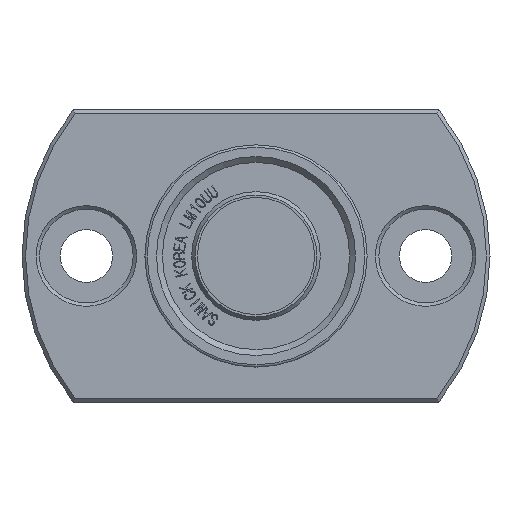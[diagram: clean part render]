
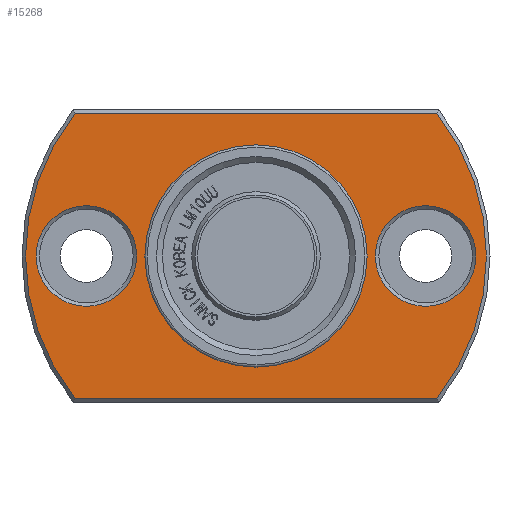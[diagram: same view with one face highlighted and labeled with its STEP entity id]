
A CAD part, front view. The second image highlights one B-rep face of the part: STEP entity #15268.
In plain terms, the highlighted planar face has unit normal (0, -1, 0).
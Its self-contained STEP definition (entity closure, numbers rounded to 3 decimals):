
#2511=FACE_BOUND('',#3625,.T.);
#2512=FACE_BOUND('',#3626,.T.);
#2513=FACE_BOUND('',#3627,.T.);
#2569=PLANE('',#16115);
#2800=FACE_OUTER_BOUND('',#3624,.T.);
#3624=EDGE_LOOP('',(#10636,#10637,#10638,#10639));
#3625=EDGE_LOOP('',(#10640));
#3626=EDGE_LOOP('',(#10641,#10642));
#3627=EDGE_LOOP('',(#10643));
#4506=LINE('',#18193,#5608);
#4507=LINE('',#18197,#5609);
#5608=VECTOR('',#16446,10.);
#5609=VECTOR('',#16449,10.);
#6709=CIRCLE('',#16112,4.3);
#6712=CIRCLE('',#16116,19.7);
#6713=CIRCLE('',#16117,19.7);
#6714=CIRCLE('',#16118,4.3);
#6715=CIRCLE('',#16119,9.5);
#6716=CIRCLE('',#16120,9.5);
#6775=VERTEX_POINT('',#18183);
#6778=VERTEX_POINT('',#18191);
#6779=VERTEX_POINT('',#18192);
#6780=VERTEX_POINT('',#18194);
#6781=VERTEX_POINT('',#18196);
#6782=VERTEX_POINT('',#18199);
#6783=VERTEX_POINT('',#18201);
#6784=VERTEX_POINT('',#18202);
#8319=EDGE_CURVE('',#6775,#6775,#6709,.T.);
#8323=EDGE_CURVE('',#6778,#6779,#4506,.T.);
#8324=EDGE_CURVE('',#6778,#6780,#6712,.T.);
#8325=EDGE_CURVE('',#6781,#6780,#4507,.T.);
#8326=EDGE_CURVE('',#6781,#6779,#6713,.T.);
#8327=EDGE_CURVE('',#6782,#6782,#6714,.T.);
#8328=EDGE_CURVE('',#6783,#6784,#6715,.T.);
#8329=EDGE_CURVE('',#6784,#6783,#6716,.T.);
#10636=ORIENTED_EDGE('',*,*,#8323,.F.);
#10637=ORIENTED_EDGE('',*,*,#8324,.T.);
#10638=ORIENTED_EDGE('',*,*,#8325,.F.);
#10639=ORIENTED_EDGE('',*,*,#8326,.T.);
#10640=ORIENTED_EDGE('',*,*,#8327,.F.);
#10641=ORIENTED_EDGE('',*,*,#8328,.F.);
#10642=ORIENTED_EDGE('',*,*,#8329,.F.);
#10643=ORIENTED_EDGE('',*,*,#8319,.F.);
#15268=ADVANCED_FACE('',(#2800,#2511,#2512,#2513),#2569,.T.);
#16112=AXIS2_PLACEMENT_3D('',#18184,#16437,#16438);
#16115=AXIS2_PLACEMENT_3D('',#18190,#16444,#16445);
#16116=AXIS2_PLACEMENT_3D('',#18195,#16447,#16448);
#16117=AXIS2_PLACEMENT_3D('',#18198,#16450,#16451);
#16118=AXIS2_PLACEMENT_3D('',#18200,#16452,#16453);
#16119=AXIS2_PLACEMENT_3D('',#18203,#16454,#16455);
#16120=AXIS2_PLACEMENT_3D('',#18204,#16456,#16457);
#16437=DIRECTION('center_axis',(0.,-1.,0.));
#16438=DIRECTION('ref_axis',(-1.,0.,0.));
#16444=DIRECTION('center_axis',(0.,-1.,0.));
#16445=DIRECTION('ref_axis',(0.,0.,-1.));
#16446=DIRECTION('',(-1.,0.,0.));
#16447=DIRECTION('center_axis',(0.,-1.,0.));
#16448=DIRECTION('ref_axis',(1.,0.,0.));
#16449=DIRECTION('',(1.,0.,0.));
#16450=DIRECTION('center_axis',(0.,-1.,0.));
#16451=DIRECTION('ref_axis',(1.,0.,0.));
#16452=DIRECTION('center_axis',(0.,-1.,0.));
#16453=DIRECTION('ref_axis',(-1.,0.,0.));
#16454=DIRECTION('center_axis',(0.,-1.,0.));
#16455=DIRECTION('ref_axis',(1.,0.,0.));
#16456=DIRECTION('center_axis',(0.,-1.,0.));
#16457=DIRECTION('ref_axis',(1.,0.,0.));
#18183=CARTESIAN_POINT('',(-10.2,-14.5,0.));
#18184=CARTESIAN_POINT('Origin',(-14.5,-14.5,0.));
#18190=CARTESIAN_POINT('Origin',(14.6,-14.5,0.));
#18191=CARTESIAN_POINT('',(15.468,-14.5,-12.2));
#18192=CARTESIAN_POINT('',(-15.468,-14.5,-12.2));
#18193=CARTESIAN_POINT('',(17.8,-14.5,-12.2));
#18194=CARTESIAN_POINT('',(15.468,-14.5,12.2));
#18195=CARTESIAN_POINT('Origin',(0.,-14.5,0.));
#18196=CARTESIAN_POINT('',(-15.468,-14.5,12.2));
#18197=CARTESIAN_POINT('',(-3.2,-14.5,12.2));
#18198=CARTESIAN_POINT('Origin',(0.,-14.5,0.));
#18199=CARTESIAN_POINT('',(18.8,-14.5,0.));
#18200=CARTESIAN_POINT('Origin',(14.5,-14.5,0.));
#18201=CARTESIAN_POINT('',(9.5,-14.5,0.));
#18202=CARTESIAN_POINT('',(-9.5,-14.5,0.));
#18203=CARTESIAN_POINT('Origin',(0.,-14.5,0.));
#18204=CARTESIAN_POINT('Origin',(0.,-14.5,0.));
